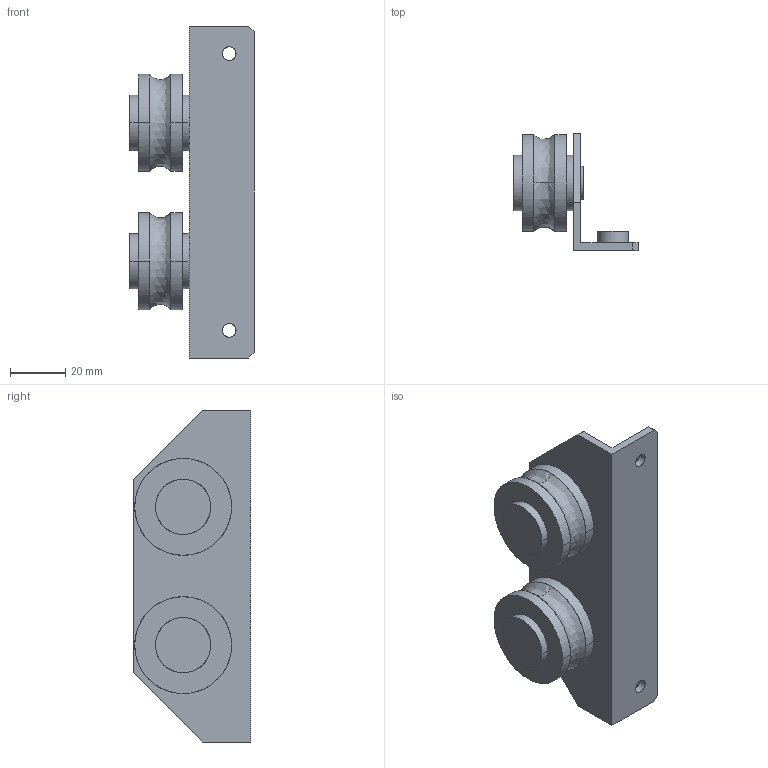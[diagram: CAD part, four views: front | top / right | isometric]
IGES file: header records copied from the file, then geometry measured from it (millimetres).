
Global section: file name: No Iges File Name specified; native system: AutoDesk Inventor R11.0; preprocessor: AutoDesk Inventor Iges Exporter R11.0; author: No Author specified; organization: No Organization specified; date: 20190511.110701; units: millimetre
Bounding box: 44.9 x 42.4 x 120 mm (x, y, z)
Surface area: 23745.8 mm2 (no closed solid volume)
Topology: 0 solids, 0 shells, 66 faces, 436 edges, 436 vertices
Faces by surface type: bspline 66
